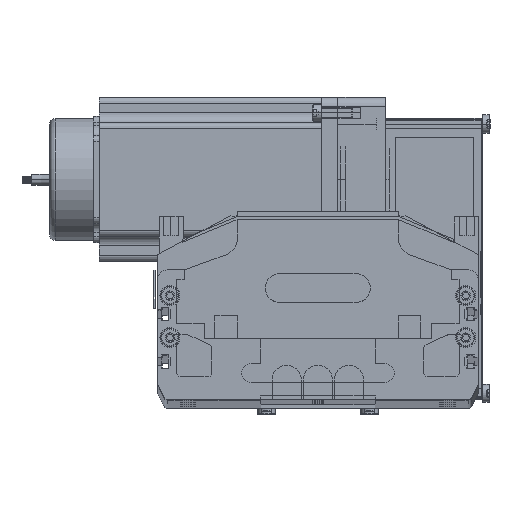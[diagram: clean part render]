
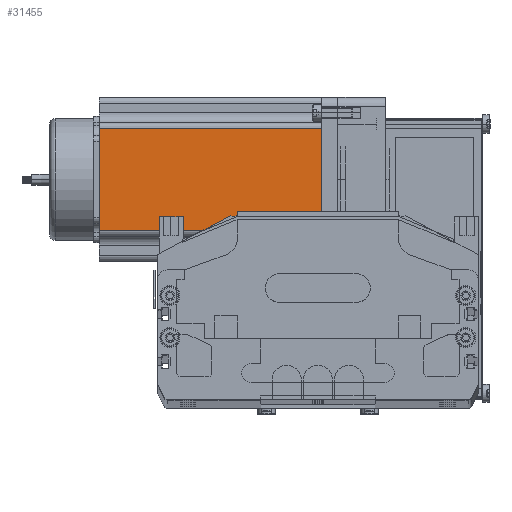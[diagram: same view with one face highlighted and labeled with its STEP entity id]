
A CAD part, top view. The second image highlights one B-rep face of the part: STEP entity #31455.
In plain terms, the highlighted planar face has unit normal (0, 0, 1) as drawn and (0, -1, 0) by its records, which use the part's own axes.
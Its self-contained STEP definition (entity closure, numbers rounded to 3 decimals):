
#4500 = FACE_OUTER_BOUND ( 'NONE', #31572, .T. ) ;
#4502 = CARTESIAN_POINT ( 'NONE',  ( 69.74, 0., 0. ) ) ;
#4528 = PLANE ( 'NONE',  #4646 ) ;
#4580 = CARTESIAN_POINT ( 'NONE',  ( 16.16, 0., 0. ) ) ;
#4603 = DIRECTION ( 'NONE',  ( 1., 0., 0. ) ) ;
#4604 = VECTOR ( 'NONE', #4603, 1000. ) ;
#4605 = CARTESIAN_POINT ( 'NONE',  ( 0., 0., 0. ) ) ;
#4606 = LINE ( 'NONE', #4605, #4604 ) ;
#4607 = DIRECTION ( 'NONE',  ( 0., 0., 1. ) ) ;
#4609 = VECTOR ( 'NONE', #4607, 1000. ) ;
#4610 = CARTESIAN_POINT ( 'NONE',  ( 69.74, 0., 116.5 ) ) ;
#4646 = AXIS2_PLACEMENT_3D ( 'NONE', #4692, #4690, #4689 ) ;
#4658 = CARTESIAN_POINT ( 'NONE',  ( 69.74, 0., 116.5 ) ) ;
#4659 = LINE ( 'NONE', #4610, #4609 ) ;
#4689 = DIRECTION ( 'NONE',  ( 0., 0., 1. ) ) ;
#4690 = DIRECTION ( 'NONE',  ( 0., 1., 0. ) ) ;
#4692 = CARTESIAN_POINT ( 'NONE',  ( 0., 0., 116.5 ) ) ;
#5311 = DIRECTION ( 'NONE',  ( 0., 0., -1. ) ) ;
#5394 = CARTESIAN_POINT ( 'NONE',  ( 16.16, 0., 116.5 ) ) ;
#5450 = VECTOR ( 'NONE', #5311, 1000. ) ;
#5451 = CARTESIAN_POINT ( 'NONE',  ( 16.16, 0., 116.5 ) ) ;
#5453 = LINE ( 'NONE', #5451, #5450 ) ;
#5570 = DIRECTION ( 'NONE',  ( 1., 0., 0. ) ) ;
#5571 = VECTOR ( 'NONE', #5570, 1000. ) ;
#5573 = CARTESIAN_POINT ( 'NONE',  ( 0., 0., 116.5 ) ) ;
#5575 = LINE ( 'NONE', #5573, #5571 ) ;
#31451 = VERTEX_POINT ( 'NONE', #4502 ) ;
#31455 = ADVANCED_FACE ( 'NONE', ( #4500 ), #4528, .F. ) ;
#31456 = ORIENTED_EDGE ( 'NONE', *, *, #31458, .T. ) ;
#31457 = ORIENTED_EDGE ( 'NONE', *, *, #31459, .T. ) ;
#31458 = EDGE_CURVE ( 'NONE', #31451, #31465, #4659, .T. ) ;
#31459 = EDGE_CURVE ( 'NONE', #31466, #31451, #4606, .T. ) ;
#31465 = VERTEX_POINT ( 'NONE', #4658 ) ;
#31466 = VERTEX_POINT ( 'NONE', #4580 ) ;
#31572 = EDGE_LOOP ( 'NONE', ( #31457, #31456, #31581, #31584 ) ) ;
#31577 = VERTEX_POINT ( 'NONE', #5394 ) ;
#31578 = EDGE_CURVE ( 'NONE', #31577, #31465, #5575, .T. ) ;
#31581 = ORIENTED_EDGE ( 'NONE', *, *, #31578, .F. ) ;
#31582 = EDGE_CURVE ( 'NONE', #31577, #31466, #5453, .T. ) ;
#31584 = ORIENTED_EDGE ( 'NONE', *, *, #31582, .T. ) ;
